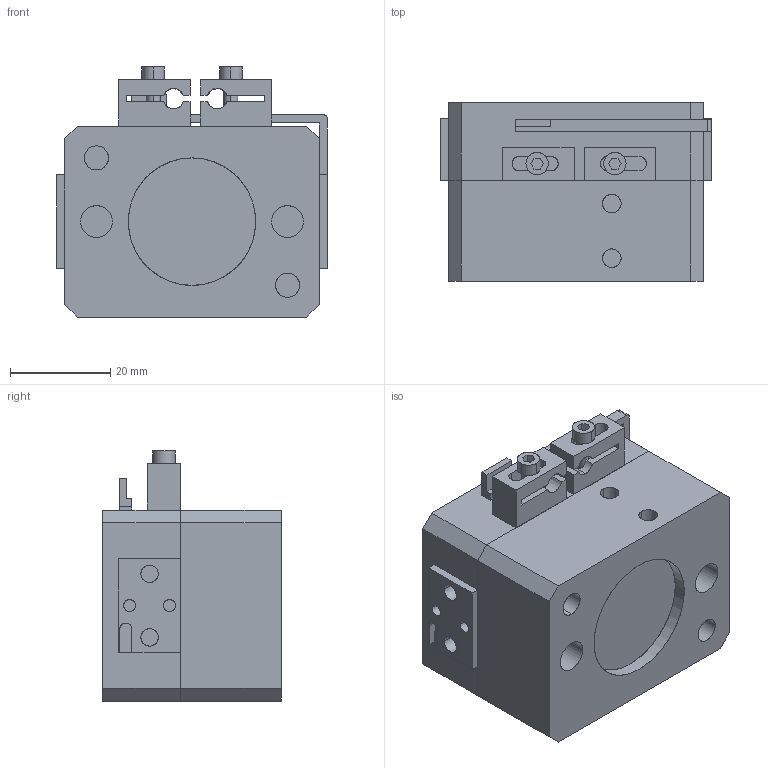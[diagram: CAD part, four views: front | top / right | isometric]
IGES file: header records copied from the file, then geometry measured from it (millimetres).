
Start section: SolidWorks IGES file using analytic representation for surfaces
Global section: file name: C:\Users\jmkuhnes\Pictures\PERSONAL\AGP\AGP-375\agp-375\AGP-375\AGP-375 CLOSED in IN.IGS; native system: SolidWorks 2013; preprocessor: SolidWorks 2013; author: jmkuhnes; date: 141031.141303; units: inch
Bounding box: 53.98 x 35.61 x 49.91 mm (x, y, z)
Surface area: 26375.9 mm2 (no closed solid volume)
Topology: 0 solids, 0 shells, 375 faces, 4880 edges, 4880 vertices
Faces by surface type: bspline 261, revolution 114
